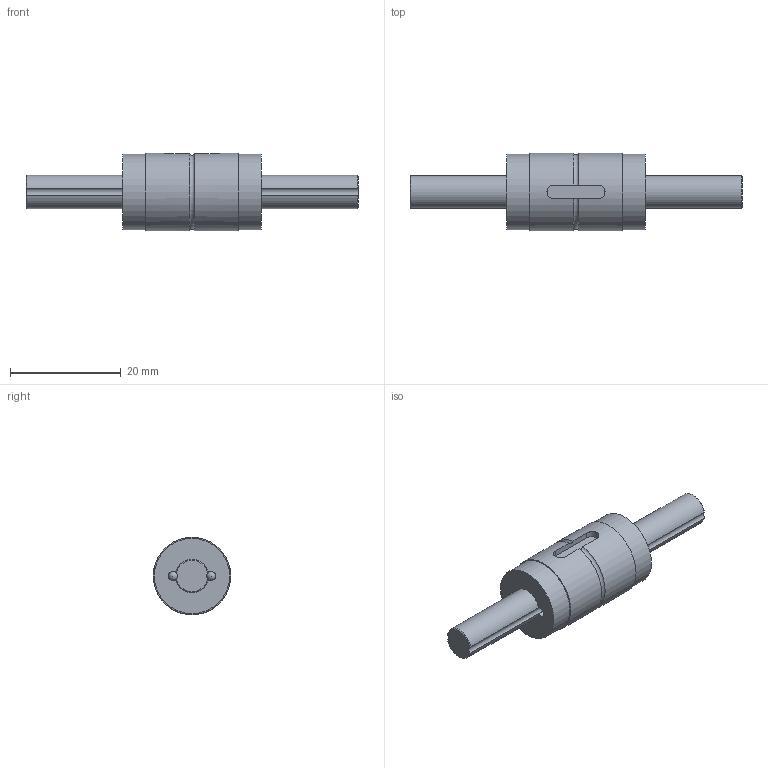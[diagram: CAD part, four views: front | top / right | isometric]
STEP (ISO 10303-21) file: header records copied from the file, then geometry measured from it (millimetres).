
FILE_DESCRIPTION(/* description */ ('Unknown'),/* implementation_level */ '2;1');
FILE_NAME(/* name */ 'TLT006-D-L60',/* time_stamp */ '2024-12-23T10:09:08+08:00',/* author */ ('Unknown'),/* organization */ ('Unknown'),/* preprocessor_version */ 'ST-DEVELOPER v18.102',/* originating_system */ 'Solid Edge',/* authorisation */ 'Unknown');
FILE_SCHEMA (('AUTOMOTIVE_DESIGN {1 0 10303 214 3 1 1}'));
Length unit declared in the file: millimetre
Products named in the file (3): TLT006-D-L60; TLT006-D-xxxx; TLT006
Assembly tree (2 placements, depth 2):
  TLT006-D-L60
    TLT006-D-xxxx
    TLT006
Bounding box: 60 x 14 x 14 mm (x, y, z)
Volume: 4614.5 mm3; surface area: 3264 mm2
Topology: 2 solids, 2 shells, 40 faces, 179 edges, 118 vertices
Faces by surface type: cylinder 15, sphere 10, plane 9, cone 4, torus 2
Full cylindrical faces by diameter (mm): 1 x1, 13.6 x2, 14 x2
Entity records: 1932 total; most frequent: CARTESIAN_POINT 665, ORIENTED_EDGE 270, DIRECTION 204, EDGE_CURVE 135, VERTEX_POINT 95, AXIS2_PLACEMENT_3D 83, EDGE_LOOP 76, FACE_BOUND 76
